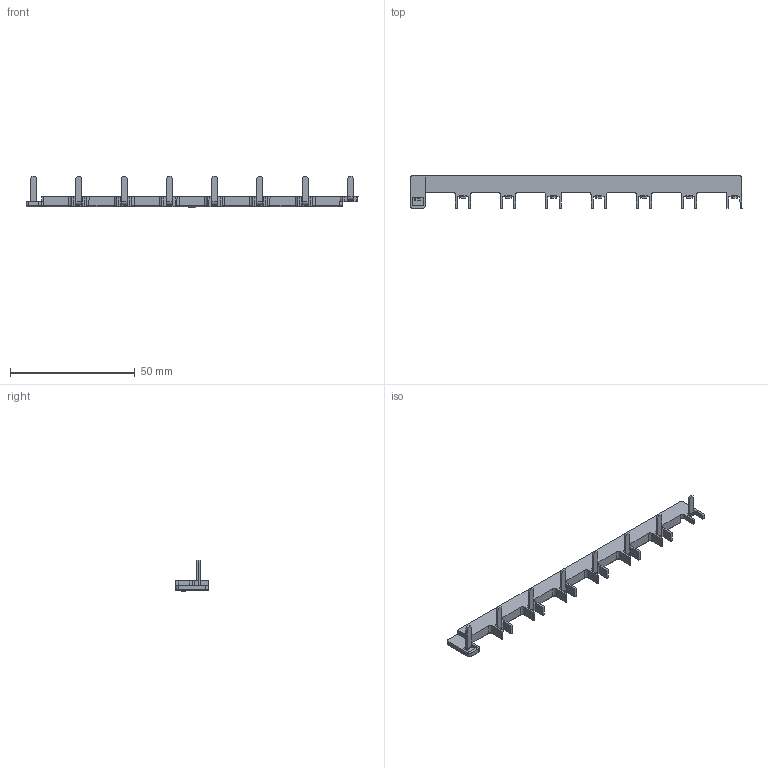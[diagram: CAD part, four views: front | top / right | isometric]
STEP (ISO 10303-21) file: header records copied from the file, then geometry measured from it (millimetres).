
FILE_DESCRIPTION (( 'STEP AP214' ), '1' );
FILE_NAME ('Bridge Bar V84_Rev_002-1.STEP', '2026-06-11T09:38:40', ( '' ), ( '' ), 'SwSTEP 2.0', 'SolidWorks 2025', '' );
FILE_SCHEMA (( 'AUTOMOTIVE_DESIGN' ));
Length unit declared in the file: millimetre
Products named in the file (1): Bridge Bar V84_Rev_002-1
Bounding box: 132.82 x 13.02 x 12.55 mm (x, y, z)
Volume: 3998.3 mm3; surface area: 4281.1 mm2
Topology: 1 solids, 1 shells, 320 faces, 836 edges, 533 vertices
Faces by surface type: plane 205, cylinder 62, bspline 53
Entity records: 11800 total; most frequent: CARTESIAN_POINT 3550, ORIENTED_EDGE 1672, DIRECTION 1281, EDGE_CURVE 836, VECTOR 573, LINE 573, VERTEX_POINT 533, AXIS2_PLACEMENT_3D 354
